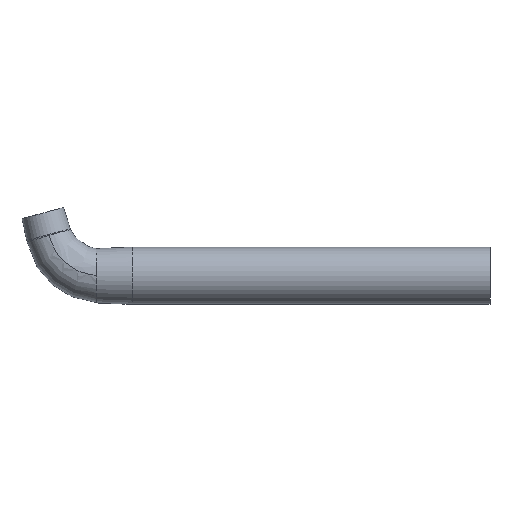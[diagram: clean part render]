
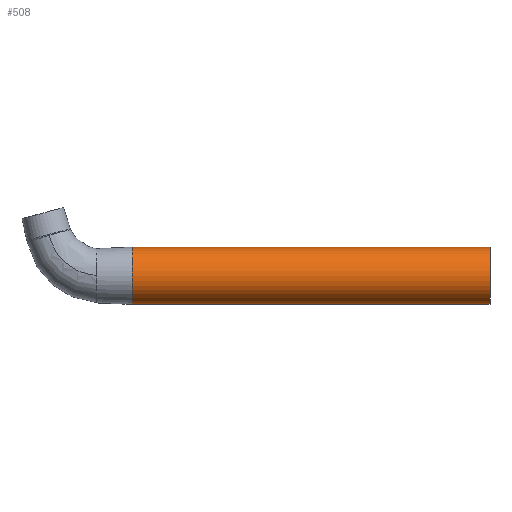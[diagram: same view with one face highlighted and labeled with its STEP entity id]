
A CAD part, top view. The second image highlights one B-rep face of the part: STEP entity #508.
In plain terms, the highlighted cylindrical face has radius 16 mm (diameter 32 mm), a partial arc.
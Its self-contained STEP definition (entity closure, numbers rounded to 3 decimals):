
#508=ADVANCED_FACE('',(#671),#670,.T.);
#670=CYLINDRICAL_SURFACE('',#1849,16.);
#671=FACE_OUTER_BOUND('',#1850,.T.);
#1846=CARTESIAN_POINT('',(145.184,156.988,0.));
#1847=DIRECTION('',(-1.,0.,0.));
#1848=DIRECTION('',(0.,-1.,0.));
#1849=AXIS2_PLACEMENT_3D('',#1846,#1847,#1848);
#1850=EDGE_LOOP('',(#2043,#2044,#2045,#2046));
#2043=ORIENTED_EDGE('',*,*,#2153,.F.);
#2044=ORIENTED_EDGE('',*,*,#2154,.F.);
#2045=ORIENTED_EDGE('',*,*,#2128,.T.);
#2046=ORIENTED_EDGE('',*,*,#2155,.T.);
#2128=EDGE_CURVE('',#2282,#2281,#2289,.T.);
#2153=EDGE_CURVE('',#2437,#2436,#2456,.T.);
#2154=EDGE_CURVE('',#2282,#2437,#2462,.T.);
#2155=EDGE_CURVE('',#2281,#2436,#2468,.T.);
#2281=VERTEX_POINT('',#2674);
#2282=VERTEX_POINT('',#2675);
#2289=CIRCLE('',#2683,16.);
#2436=VERTEX_POINT('',#2911);
#2437=VERTEX_POINT('',#2912);
#2456=CIRCLE('',#2924,16.);
#2462=(BOUNDED_CURVE() B_SPLINE_CURVE(1,(#2925,#2926),.UNSPECIFIED.,.F.,.F.) B_SPLINE_CURVE_WITH_KNOTS((2,2),(0.045,0.955),.UNSPECIFIED.) CURVE() GEOMETRIC_REPRESENTATION_ITEM() RATIONAL_B_SPLINE_CURVE((1.,1.)) REPRESENTATION_ITEM('') );
#2468=(BOUNDED_CURVE() B_SPLINE_CURVE(1,(#2927,#2928),.UNSPECIFIED.,.F.,.F.) B_SPLINE_CURVE_WITH_KNOTS((2,2),(0.045,0.955),.UNSPECIFIED.) CURVE() GEOMETRIC_REPRESENTATION_ITEM() RATIONAL_B_SPLINE_CURVE((0.75,0.75)) REPRESENTATION_ITEM('') );
#2674=CARTESIAN_POINT('',(345.184,172.988,0.));
#2675=CARTESIAN_POINT('',(345.184,140.988,0.));
#2680=CARTESIAN_POINT('',(345.184,156.988,0.));
#2681=DIRECTION('',(-1.,0.,0.));
#2682=DIRECTION('',(0.,-1.,0.));
#2683=AXIS2_PLACEMENT_3D('',#2680,#2681,#2682);
#2911=CARTESIAN_POINT('',(145.184,172.988,0.));
#2912=CARTESIAN_POINT('',(145.184,140.988,0.));
#2921=CARTESIAN_POINT('',(145.184,156.988,0.));
#2922=DIRECTION('',(-1.,0.,0.));
#2923=DIRECTION('',(0.,-1.,0.));
#2924=AXIS2_PLACEMENT_3D('',#2921,#2922,#2923);
#2925=CARTESIAN_POINT('',(345.184,140.988,0.));
#2926=CARTESIAN_POINT('',(145.184,140.988,0.));
#2927=CARTESIAN_POINT('',(345.184,172.988,0.));
#2928=CARTESIAN_POINT('',(145.184,172.988,0.));
